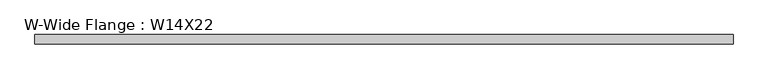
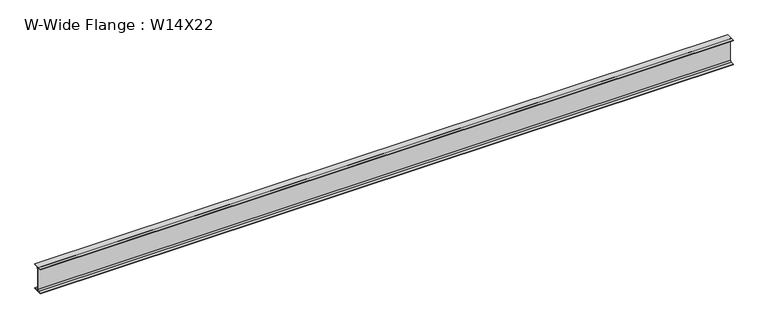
"""IFC4 building model written with IfcOpenShell, lengths in millimetres: beam geometry, W-Wide Flange : W14X22."""

from ifc_helpers import new_model, si_unit, point, frame, frame_2d, origin, place, context, project, spatial, polyline, circle_curve, trimmed, segment, composite_curve, outline, extrude, source, transform, mapped, element, save


def w_wide_flange_w14x22_2e51511a(model_context):
    return source(origin(), model_context, "Body", "SweptSolid", [
        extrude(outline(composite_curve([segment(polyline([(63.5, -165.481), (63.5, -173.99), (-63.5, -173.99), (-63.5, -165.481), (-21.3995, -165.481)]), True, "CONTINUOUS"), segment(trimmed(circle_curve(frame_2d((-21.3995, -147.0025)), 18.4785), [point((-21.3995, -165.481))], [point((-2.921, -147.0025))], True, "CARTESIAN"), True, "CONTINUOUS"), segment(polyline([(-2.921, -147.0025), (-2.921, 147.0025)]), True, "CONTINUOUS"), segment(trimmed(circle_curve(frame_2d((-21.3995, 147.0025)), 18.4785), [point((-2.921, 147.0025))], [point((-21.3995, 165.481))], True, "CARTESIAN"), True, "CONTINUOUS"), segment(polyline([(-21.3995, 165.481), (-63.5, 165.481), (-63.5, 173.99), (63.5, 173.99), (63.5, 165.481), (21.3995, 165.481)]), True, "CONTINUOUS"), segment(trimmed(circle_curve(frame_2d((21.3995, 147.0025)), 18.4785), [point((21.3995, 165.481))], [point((2.921, 147.0025))], True, "CARTESIAN"), True, "CONTINUOUS"), segment(polyline([(2.921, 147.0025), (2.921, -147.0025)]), True, "CONTINUOUS"), segment(trimmed(circle_curve(frame_2d((21.3995, -147.0025)), 18.4785), [point((2.921, -147.0025))], [point((21.3995, -165.481))], True, "CARTESIAN"), True, "CONTINUOUS"), segment(polyline([(21.3995, -165.481), (63.5, -165.481)]), True, "CONTINUOUS")], self_intersect=False)), frame((-4672.838, 0.0, 0.0), z_axis=(1.0, 0.0, 0.0), x_axis=(0.0, 1.0, 0.0)), (0.0, 0.0, 1.0), 9340.088),
    ])


if __name__ == "__main__":
    model = new_model("IFC4")
    model_context = context("Model", 3, world=origin())
    ifc_project = project(units=[si_unit("LENGTHUNIT", "METRE", prefix="MILLI")], contexts=[model_context])
    site = spatial("IfcSite", under=ifc_project)
    building = spatial("IfcBuilding", under=site)
    placement = place(None, origin())
    w_wide_flange_w14x22_shape = w_wide_flange_w14x22_2e51511a(model_context)
    element("IfcBeam", 1, ObjectType="W-Wide Flange : W14X22", at=placement, inside=building, context=model_context, shape_type="MappedRepresentation", body=[
        mapped(w_wide_flange_w14x22_shape, transform((0.0, 0.0, 0.0), x_axis=(1.0, 0.0, 0.0), y_axis=(0.0, 1.0, 0.0), z_axis=(0.0, 0.0, 1.0))),
    ])
    save(model, "model.ifc")
